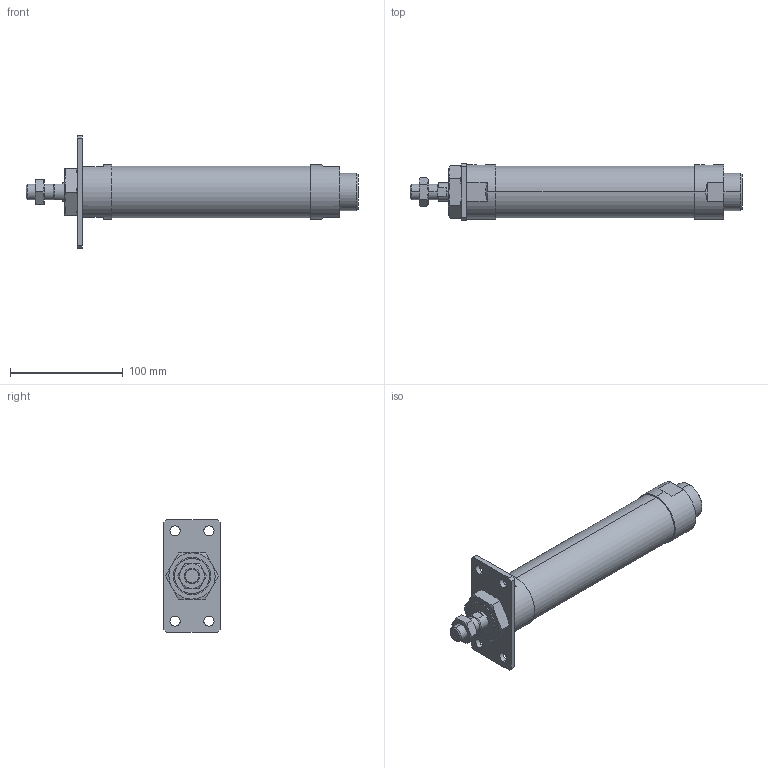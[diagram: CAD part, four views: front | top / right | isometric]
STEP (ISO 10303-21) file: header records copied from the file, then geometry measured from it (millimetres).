
FILE_DESCRIPTION (( 'STEP AP203' ), '1' );
FILE_NAME ('J#2-40-125-A.STEP', '2016-03-08T07:59:22', ( '' ), ( '' ), 'SwSTEP 2.0', 'SolidWorks 2014', '' );
FILE_SCHEMA (( 'CONFIG_CONTROL_DESIGN' ));
Length unit declared in the file: millimetre
Products named in the file (5): J#2-40-A; J#2-40-125; J#2-40-125-A
Assembly tree (4 placements, depth 2):
  J#2-40-125-A
    J#2-40-125
    (unnamed)
    (unnamed)
    J#2-40-A
Bounding box: 294 x 50 x 100 mm (x, y, z)
Volume: 443006.8 mm3; surface area: 58554.9 mm2
Topology: 4 solids, 4 shells, 114 faces, 264 edges, 161 vertices
Faces by surface type: plane 43, cylinder 32, torus 24, cone 15
Entity records: 4198 total; most frequent: CARTESIAN_POINT 1133, DIRECTION 537, ORIENTED_EDGE 520, EDGE_CURVE 260, AXIS2_PLACEMENT_3D 219, VERTEX_POINT 161, EDGE_LOOP 135, ADVANCED_FACE 114
